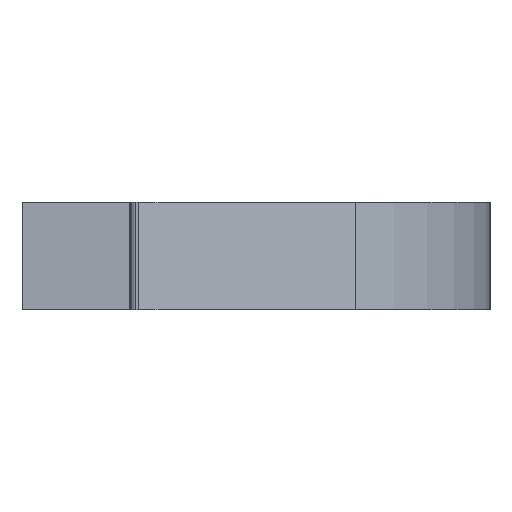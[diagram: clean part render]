
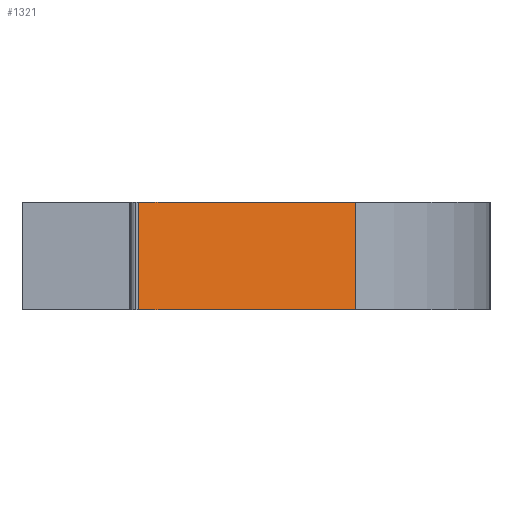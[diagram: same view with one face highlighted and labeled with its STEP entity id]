
A CAD part, left-side view. The second image highlights one B-rep face of the part: STEP entity #1321.
In plain terms, the highlighted planar face has unit normal (-0.866, -0.5, 0).
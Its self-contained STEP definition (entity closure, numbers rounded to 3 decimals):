
#52 = DIRECTION ( 'NONE',  ( 0., 0., -1. ) ) ;
#162 = LINE ( 'NONE', #335, #581 ) ;
#172 = DIRECTION ( 'NONE',  ( 0.866, 0.5, 0. ) ) ;
#207 = DIRECTION ( 'NONE',  ( -0.5, 0.866, 0. ) ) ;
#237 = VERTEX_POINT ( 'NONE', #274 ) ;
#245 = AXIS2_PLACEMENT_3D ( 'NONE', #870, #172, #207 ) ;
#274 = CARTESIAN_POINT ( 'NONE',  ( 477.64, -817.907, 0. ) ) ;
#335 = CARTESIAN_POINT ( 'NONE',  ( 477.64, -817.907, 18. ) ) ;
#356 = EDGE_CURVE ( 'NONE', #1386, #2271, #682, .T. ) ;
#410 = VECTOR ( 'NONE', #541, 1000. ) ;
#534 = VECTOR ( 'NONE', #52, 1000. ) ;
#541 = DIRECTION ( 'NONE',  ( 0.5, -0.866, 0. ) ) ;
#581 = VECTOR ( 'NONE', #2013, 1000. ) ;
#590 = FACE_OUTER_BOUND ( 'NONE', #1059, .T. ) ;
#640 = CARTESIAN_POINT ( 'NONE',  ( 456.855, -781.907, 18. ) ) ;
#682 = LINE ( 'NONE', #640, #920 ) ;
#743 = CARTESIAN_POINT ( 'NONE',  ( 456.855, -781.907, 0. ) ) ;
#749 = ORIENTED_EDGE ( 'NONE', *, *, #356, .T. ) ;
#765 = LINE ( 'NONE', #1164, #534 ) ;
#870 = CARTESIAN_POINT ( 'NONE',  ( 477.64, -817.907, 18. ) ) ;
#920 = VECTOR ( 'NONE', #2126, 1000. ) ;
#1059 = EDGE_LOOP ( 'NONE', ( #1902, #1886, #2183, #749 ) ) ;
#1164 = CARTESIAN_POINT ( 'NONE',  ( 477.64, -817.907, 18. ) ) ;
#1200 = PLANE ( 'NONE',  #245 ) ;
#1321 = ADVANCED_FACE ( 'NONE', ( #590 ), #1200, .F. ) ;
#1386 = VERTEX_POINT ( 'NONE', #1641 ) ;
#1485 = CARTESIAN_POINT ( 'NONE',  ( 477.64, -817.907, 0. ) ) ;
#1535 = EDGE_CURVE ( 'NONE', #2000, #237, #765, .T. ) ;
#1641 = CARTESIAN_POINT ( 'NONE',  ( 456.855, -781.907, 18. ) ) ;
#1886 = ORIENTED_EDGE ( 'NONE', *, *, #1535, .F. ) ;
#1899 = LINE ( 'NONE', #1485, #410 ) ;
#1902 = ORIENTED_EDGE ( 'NONE', *, *, #2250, .T. ) ;
#2000 = VERTEX_POINT ( 'NONE', #2209 ) ;
#2013 = DIRECTION ( 'NONE',  ( 0.5, -0.866, 0. ) ) ;
#2126 = DIRECTION ( 'NONE',  ( 0., 0., -1. ) ) ;
#2137 = EDGE_CURVE ( 'NONE', #1386, #2000, #162, .T. ) ;
#2183 = ORIENTED_EDGE ( 'NONE', *, *, #2137, .F. ) ;
#2209 = CARTESIAN_POINT ( 'NONE',  ( 477.64, -817.907, 18. ) ) ;
#2250 = EDGE_CURVE ( 'NONE', #2271, #237, #1899, .T. ) ;
#2271 = VERTEX_POINT ( 'NONE', #743 ) ;
